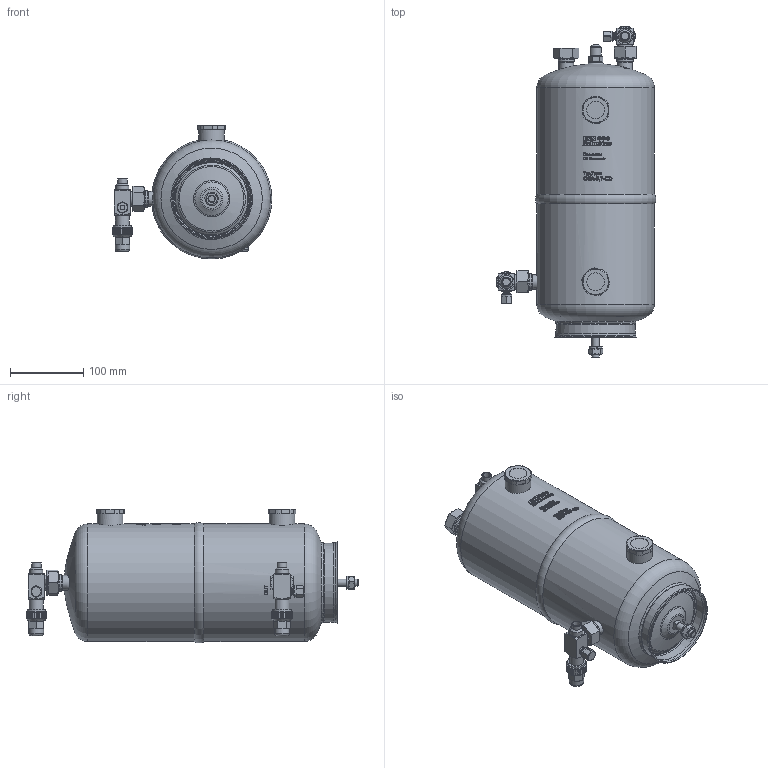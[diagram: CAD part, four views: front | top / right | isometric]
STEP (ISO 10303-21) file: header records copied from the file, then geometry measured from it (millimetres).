
FILE_DESCRIPTION(/* description */ (''),/* implementation_level */ '2;1');
FILE_NAME(/* name */ 'P:\OSA\OSA-5,7-CD\OSA-5,7-CD.stp',/* time_stamp */ '2017-10-05T08:50:08+02:00',/* author */ ('neufeld'),/* organization */ (''),/* preprocessor_version */ 'ST-DEVELOPER v16.1',/* originating_system */ 'Autodesk Inventor 2016',/* authorisation */ '');
FILE_SCHEMA (('AUTOMOTIVE_DESIGN { 1 0 10303 214 3 1 1 }'));
Length unit declared in the file: millimetre
Products named in the file (4): OSA-5,7-CD_1; OSA-5,7-CD_2; OSA-5,7-CD_3; OSA-5,7-CD
Assembly tree (3 placements, depth 2):
  OSA-5,7-CD
    OSA-5,7-CD_1
    OSA-5,7-CD_2
    OSA-5,7-CD_3
Bounding box: 217.56 x 452.04 x 182.42 mm (x, y, z)
Volume: 7027273.7 mm3; surface area: 266370.8 mm2
Topology: 3 solids, 9 shells, 1731 faces, 4548 edges, 2976 vertices
Faces by surface type: plane 937, bspline 328, cylinder 299, cone 139, torus 23, sphere 5
Full cylindrical faces by diameter (mm): 4 x2, 6.5 x2, 7.2 x1, 9 x2, 9.4 x2, 10 x2, 10.1 x2, 10.2 x2, 10.72 x2, 11 x2, 13 x2, 13.3 x2, 13.5 x4, 14 x2, 14.2 x2, 15.312 x1, 15.75 x2, 15.87 x2, 16.7 x2, 16.8 x2, 17 x1, 17.3 x2, 18 x2, 18.3 x2, 19 x2, 19.05 x2, 19.9 x2, 20 x7, 22.5 x5, 23 x2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
Entity records: 59132 total; most frequent: CARTESIAN_POINT 18860, ORIENTED_EDGE 8704, DIRECTION 7698, EDGE_CURVE 4340, VERTEX_POINT 2935, AXIS2_PLACEMENT_3D 2849, EDGE_LOOP 2043, LINE 2000
